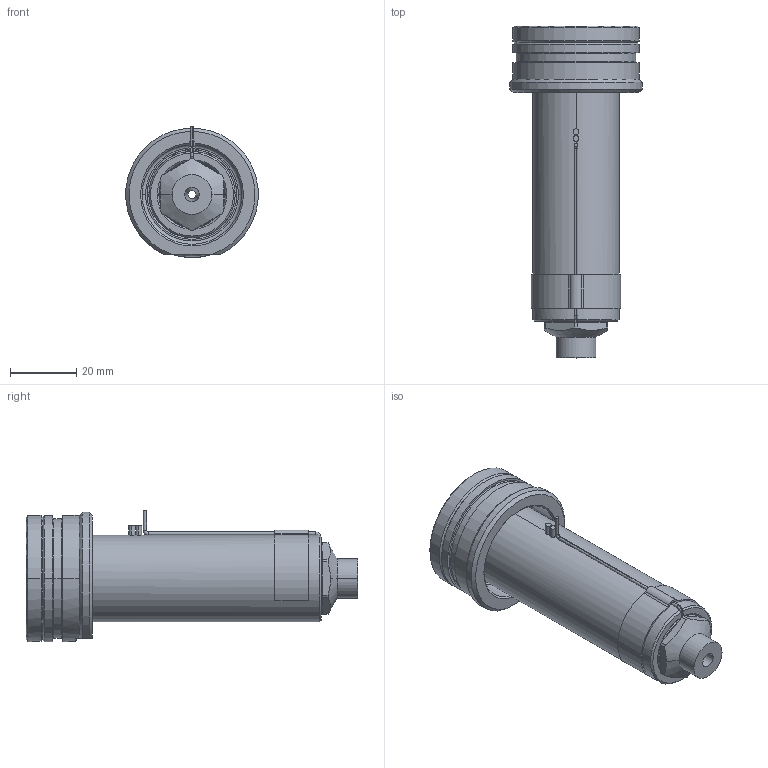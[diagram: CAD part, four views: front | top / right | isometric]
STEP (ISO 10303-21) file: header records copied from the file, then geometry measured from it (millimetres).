
FILE_DESCRIPTION((''),'2;1');
FILE_NAME('EO08_SG_SG_080_SW','2024-02-19T12:20:00',('sundharh'),(''),'CREO PARAMETRIC BY PTC INC, 2023154','CREO PARAMETRIC BY PTC INC, 2023154','');
FILE_SCHEMA(('CONFIG_CONTROL_DESIGN'));
Length unit declared in the file: millimetre
Products named in the file (1): EO08_SG_SG_080_SW
Bounding box: 39.88 x 100 x 39.52 mm (x, y, z)
Volume: 54363.5 mm3; surface area: 16509 mm2
Topology: 1 solids, 1 shells, 167 faces, 419 edges, 256 vertices
Faces by surface type: cylinder 64, plane 44, cone 33, torus 19, bspline 4, sphere 3
Entity records: 6143 total; most frequent: CARTESIAN_POINT 2070, DIRECTION 895, ORIENTED_EDGE 826, EDGE_CURVE 413, AXIS2_PLACEMENT_3D 370, VERTEX_POINT 256, CIRCLE 207, EDGE_LOOP 183
